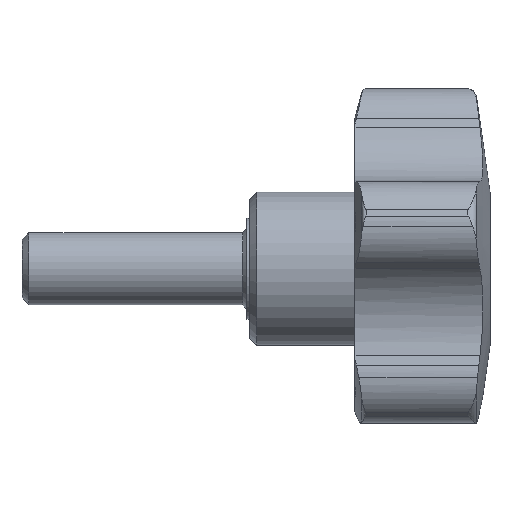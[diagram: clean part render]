
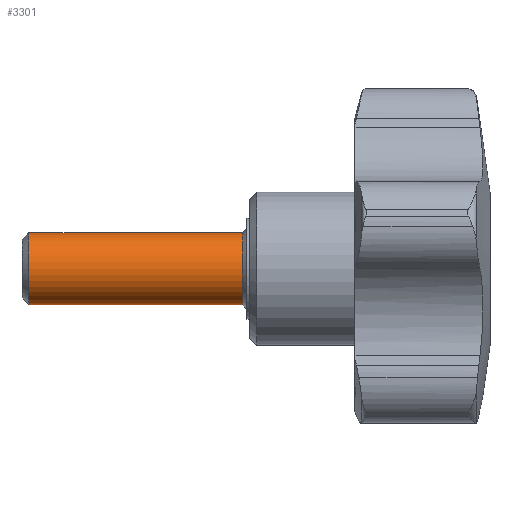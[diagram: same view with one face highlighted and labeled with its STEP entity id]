
A CAD part, top view. The second image highlights one B-rep face of the part: STEP entity #3301.
In plain terms, the highlighted cylindrical face has radius 4 mm (diameter 8 mm), a partial arc.
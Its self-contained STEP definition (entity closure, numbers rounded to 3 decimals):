
#151 = EDGE_LOOP ( 'NONE', ( #2622, #4207, #5001, #492 ) ) ;
#354 = LINE ( 'NONE', #3999, #5634 ) ;
#399 = VERTEX_POINT ( 'NONE', #4972 ) ;
#444 = CARTESIAN_POINT ( 'NONE',  ( -0.5, 4., 0. ) ) ;
#492 = ORIENTED_EDGE ( 'NONE', *, *, #2691, .F. ) ;
#718 = VECTOR ( 'NONE', #2774, 1000. ) ;
#1004 = CARTESIAN_POINT ( 'NONE',  ( -25., 4., 0. ) ) ;
#1267 = CIRCLE ( 'NONE', #2107, 4. ) ;
#1374 = CIRCLE ( 'NONE', #4621, 4. ) ;
#1634 = AXIS2_PLACEMENT_3D ( 'NONE', #2698, #2256, #4022 ) ;
#1742 = CARTESIAN_POINT ( 'NONE',  ( -0.5, 0., 0. ) ) ;
#1770 = CARTESIAN_POINT ( 'NONE',  ( -24.233, 0., 0. ) ) ;
#1852 = VERTEX_POINT ( 'NONE', #5638 ) ;
#2107 = AXIS2_PLACEMENT_3D ( 'NONE', #1742, #4463, #3606 ) ;
#2256 = DIRECTION ( 'NONE',  ( -1., 0., 0. ) ) ;
#2622 = ORIENTED_EDGE ( 'NONE', *, *, #4928, .T. ) ;
#2691 = EDGE_CURVE ( 'NONE', #4436, #399, #354, .T. ) ;
#2698 = CARTESIAN_POINT ( 'NONE',  ( -25., 0., 0. ) ) ;
#2714 = CARTESIAN_POINT ( 'NONE',  ( -0.5, -4., 0. ) ) ;
#2774 = DIRECTION ( 'NONE',  ( -1., 0., 0. ) ) ;
#3078 = DIRECTION ( 'NONE',  ( -1., 0., 0. ) ) ;
#3301 = ADVANCED_FACE ( 'NONE', ( #4490 ), #4465, .T. ) ;
#3606 = DIRECTION ( 'NONE',  ( 0., -1., 0. ) ) ;
#3796 = VERTEX_POINT ( 'NONE', #444 ) ;
#3999 = CARTESIAN_POINT ( 'NONE',  ( -25., -4., 0. ) ) ;
#4022 = DIRECTION ( 'NONE',  ( 0., -1., 0. ) ) ;
#4105 = EDGE_CURVE ( 'NONE', #399, #1852, #1374, .T. ) ;
#4207 = ORIENTED_EDGE ( 'NONE', *, *, #4573, .T. ) ;
#4436 = VERTEX_POINT ( 'NONE', #2714 ) ;
#4463 = DIRECTION ( 'NONE',  ( -1., 0., 0. ) ) ;
#4465 = CYLINDRICAL_SURFACE ( 'NONE', #1634, 4. ) ;
#4490 = FACE_OUTER_BOUND ( 'NONE', #151, .T. ) ;
#4573 = EDGE_CURVE ( 'NONE', #3796, #1852, #5457, .T. ) ;
#4621 = AXIS2_PLACEMENT_3D ( 'NONE', #1770, #3078, #5726 ) ;
#4928 = EDGE_CURVE ( 'NONE', #4436, #3796, #1267, .T. ) ;
#4972 = CARTESIAN_POINT ( 'NONE',  ( -24.233, -4., 0. ) ) ;
#5001 = ORIENTED_EDGE ( 'NONE', *, *, #4105, .F. ) ;
#5197 = DIRECTION ( 'NONE',  ( -1., 0., 0. ) ) ;
#5457 = LINE ( 'NONE', #1004, #718 ) ;
#5634 = VECTOR ( 'NONE', #5197, 1000. ) ;
#5638 = CARTESIAN_POINT ( 'NONE',  ( -24.233, 4., 0. ) ) ;
#5726 = DIRECTION ( 'NONE',  ( 0., -1., 0. ) ) ;
